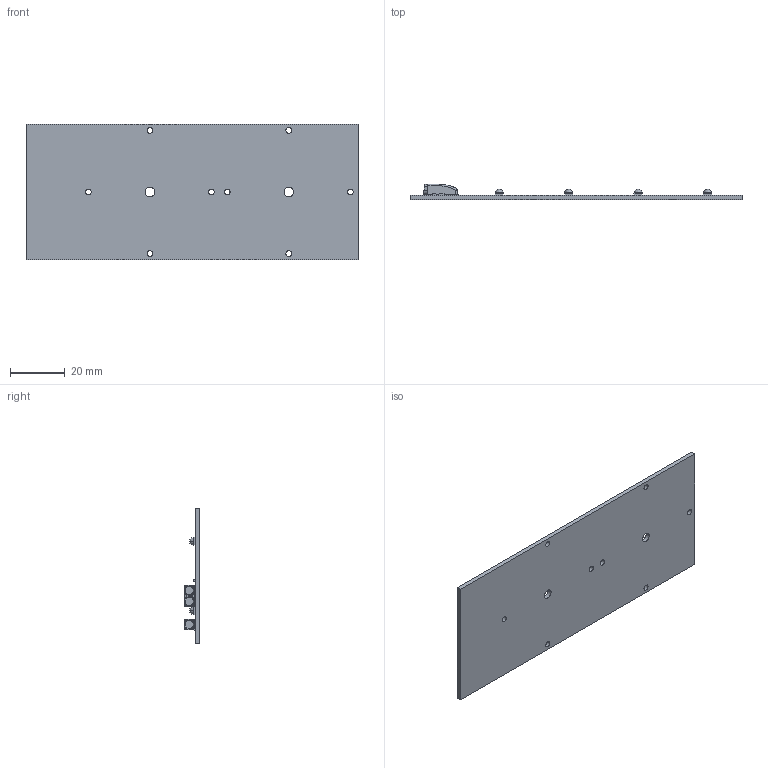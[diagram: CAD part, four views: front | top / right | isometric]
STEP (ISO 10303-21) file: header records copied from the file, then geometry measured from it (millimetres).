
FILE_DESCRIPTION (( 'STEP AP203' ), '1' );
FILE_NAME ('2D1-3679654-EN-01-BJB connector.STEP', '2021-08-16T06:16:29', ( '' ), ( '' ), 'SwSTEP 2.0', 'SolidWorks 2017', '' );
FILE_SCHEMA (( 'CONFIG_CONTROL_DESIGN' ));
Length unit declared in the file: millimetre
Products named in the file (1): 2D1-3679654-EN-01-BJB connector
Bounding box: 121.4 x 5.56 x 49.5 mm (x, y, z)
Volume: 10104.9 mm3; surface area: 13419.8 mm2
Topology: 13 solids, 13 shells, 633 faces, 1640 edges, 1061 vertices
Faces by surface type: plane 356, cylinder 165, bspline 110, cone 2
Entity records: 25090 total; most frequent: CARTESIAN_POINT 11031, ORIENTED_EDGE 3242, DIRECTION 2252, EDGE_CURVE 1621, VERTEX_POINT 1061, LINE 890, VECTOR 890, EDGE_LOOP 700
